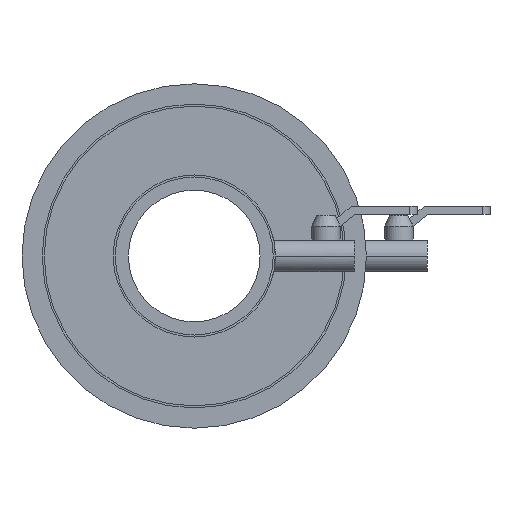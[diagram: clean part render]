
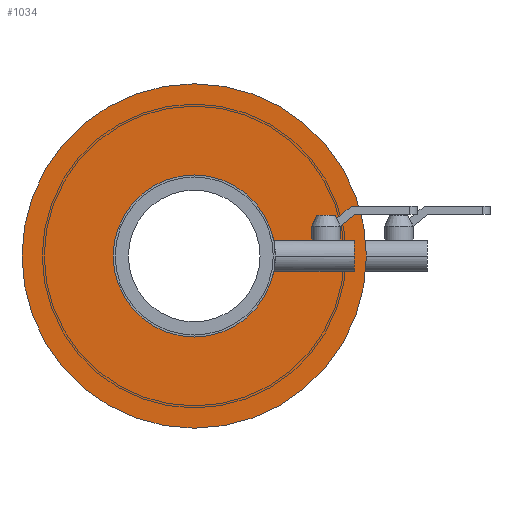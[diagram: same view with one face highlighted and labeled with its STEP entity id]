
A CAD part, left-side view. The second image highlights one B-rep face of the part: STEP entity #1034.
In plain terms, the highlighted planar face has unit normal (-1, 0, 0).
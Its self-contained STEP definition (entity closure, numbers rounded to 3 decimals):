
#291=CARTESIAN_POINT('',(-453.,0.,0.));
#292=DIRECTION('',(-1.,0.,0.));
#293=DIRECTION('',(0.,1.,0.));
#294=AXIS2_PLACEMENT_3D('',#291,#292,#293);
#296=CARTESIAN_POINT('',(-453.,0.,0.));
#297=DIRECTION('',(1.,0.,0.));
#298=DIRECTION('',(0.,1.,0.));
#299=AXIS2_PLACEMENT_3D('',#296,#297,#298);
#301=CARTESIAN_POINT('',(-453.,0.,0.));
#302=DIRECTION('',(1.,0.,0.));
#303=DIRECTION('',(0.,1.,0.));
#304=AXIS2_PLACEMENT_3D('',#301,#302,#303);
#306=CARTESIAN_POINT('',(-453.,0.,0.));
#307=DIRECTION('',(1.,0.,0.));
#308=DIRECTION('',(0.,-1.,0.));
#309=AXIS2_PLACEMENT_3D('',#306,#307,#308);
#666=CARTESIAN_POINT('',(-453.,170.,0.));
#668=VERTEX_POINT('',#666);
#678=CARTESIAN_POINT('',(-453.,-170.,0.));
#680=VERTEX_POINT('',#678);
#743=CARTESIAN_POINT('',(-453.,80.,0.));
#744=CARTESIAN_POINT('',(-453.,-80.,0.));
#745=VERTEX_POINT('',#743);
#746=VERTEX_POINT('',#744);
#1019=CARTESIAN_POINT('',(-453.,0.,0.));
#1020=DIRECTION('',(1.,0.,0.));
#1021=DIRECTION('',(0.,-1.,0.));
#1022=AXIS2_PLACEMENT_3D('',#1019,#1020,#1021);
#1023=PLANE('',#1022);
#1024=ORIENTED_EDGE('',*,*,#758,.F.);
#1025=ORIENTED_EDGE('',*,*,#776,.T.);
#1026=EDGE_LOOP('',(#1024,#1025));
#1027=FACE_OUTER_BOUND('',#1026,.F.);
#1029=ORIENTED_EDGE('',*,*,#1028,.F.);
#1031=ORIENTED_EDGE('',*,*,#1030,.F.);
#1032=EDGE_LOOP('',(#1029,#1031));
#1033=FACE_BOUND('',#1032,.F.);
#295=CIRCLE('',#294,170.);
#300=CIRCLE('',#299,170.);
#305=CIRCLE('',#304,80.);
#310=CIRCLE('',#309,80.);
#758=EDGE_CURVE('',#668,#680,#295,.T.);
#776=EDGE_CURVE('',#668,#680,#300,.T.);
#1028=EDGE_CURVE('',#745,#746,#305,.T.);
#1030=EDGE_CURVE('',#746,#745,#310,.T.);
#1034=ADVANCED_FACE('',(#1027,#1033),#1023,.F.);
